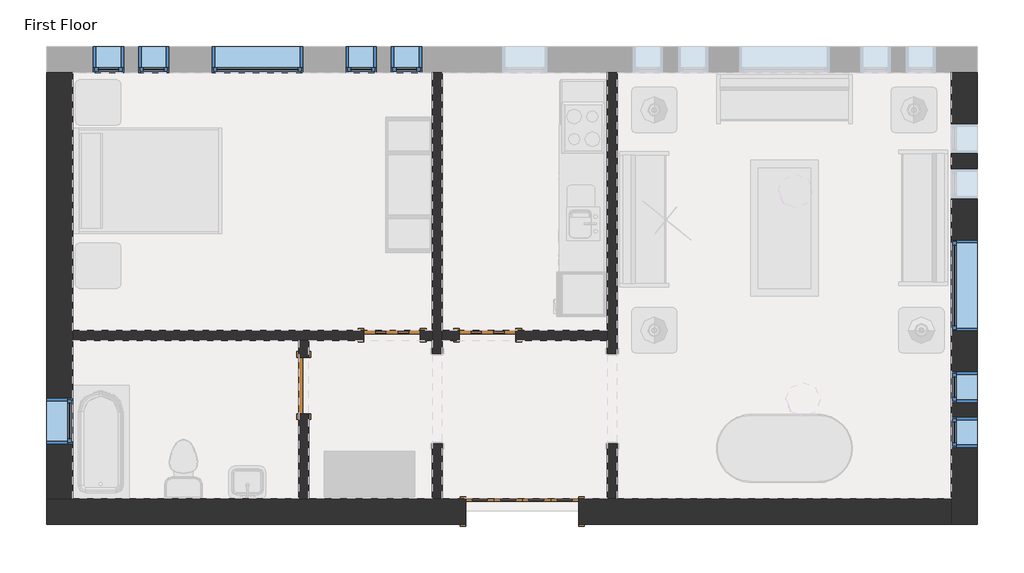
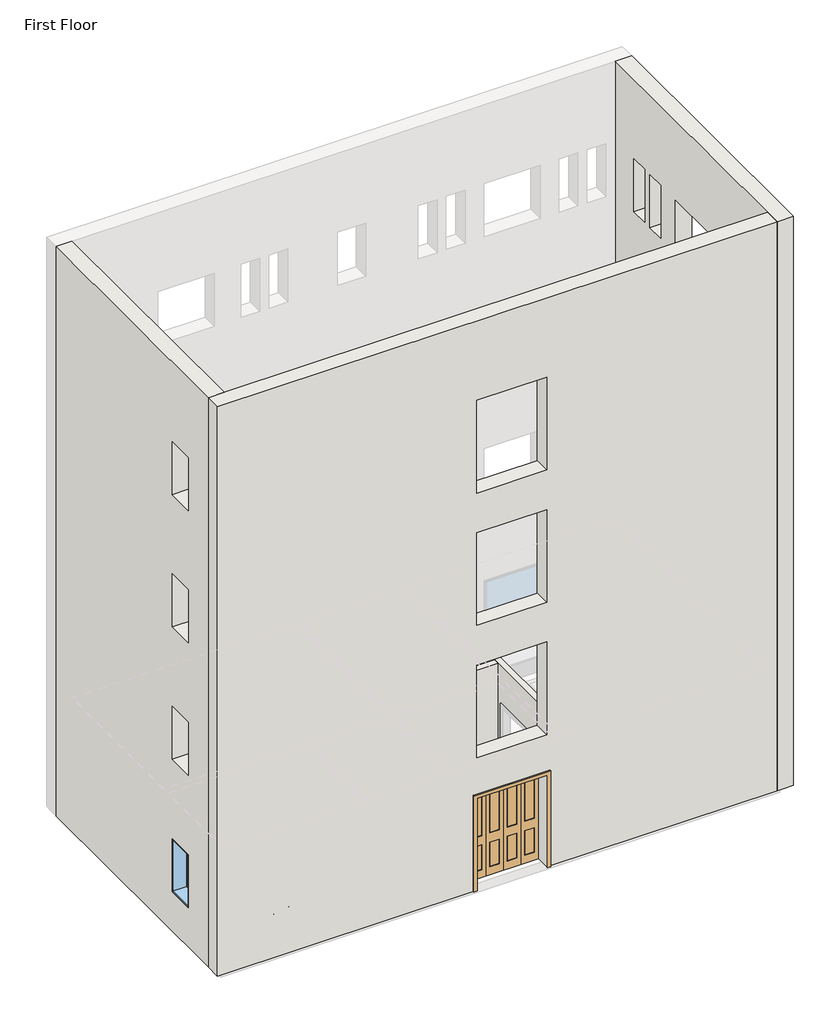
# One storey, part 1 of 2: 9 windows, 7 walls, 4 doors.
"""IFC4 building model written with IfcOpenShell, lengths in millimetres."""

import ifcopenshell
import ifcopenshell.guid

model = None  # the IFC model being written
_history = None  # IfcOwnerHistory: only IFC2X3 demands one
_inside = {}  # id of a spatial element -> (the spatial element, [elements in it])
_under = {}  # id of a project, library or spatial element -> (it, [spatial elements below it])
_declared = {}  # id of a project -> (the project, [libraries it declares])
_typed = {}  # id of a type object -> (the type object, [elements of that type])
_made_of = {}  # id of a material, layer set ... -> (it, [elements and type objects made of it])


def new_model(schema):
    """Start an empty IFC model of exactly this schema.

    Asked for "IFC4X3", IfcOpenShell would pick the latest addendum, in which some entities
    have other attributes; the version numbers below select the first issue.
    IFC2X3 requires an IfcOwnerHistory on every rooted entity: one is made here for all.
    """
    global model, _history
    if schema == "IFC4X3":
        model = ifcopenshell.file(schema_version=(4, 3, 0, 0))
    else:
        model = ifcopenshell.file(schema=schema)
    _inside.clear()
    _under.clear()
    _declared.clear()
    _typed.clear()
    _made_of.clear()
    _history = None
    if model.schema == "IFC2X3":
        org = make("IfcOrganization", Name="unknown")
        user = make(
            "IfcPersonAndOrganization",
            ThePerson=make("IfcPerson", FamilyName="unknown"),
            TheOrganization=org,
        )
        app = make(
            "IfcApplication",
            ApplicationDeveloper=org,
            Version="unknown",
            ApplicationFullName="unknown",
            ApplicationIdentifier="unknown",
        )
        _history = make(
            "IfcOwnerHistory",
            OwningUser=user,
            OwningApplication=app,
            ChangeAction="ADDED",
            CreationDate=0,
        )
    return model


def make(cls, **values):
    """One entity of the class cls with the attributes given. An attribute that is None is left unset."""
    return model.create_entity(
        cls, **{name: value for name, value in values.items() if value is not None}
    )


def rooted(cls, **values):
    """An entity with a GlobalId (a new one), such as an element, a storey or a relation."""
    return make(cls, GlobalId=ifcopenshell.guid.new(), OwnerHistory=_history, **values)


def si_unit(unit_type, name, prefix=None):
    """IfcSIUnit, for example si_unit("LENGTHUNIT", "METRE", prefix="MILLI")."""
    return make("IfcSIUnit", UnitType=unit_type, Prefix=prefix, Name=name)


def assignment(units):
    """IfcUnitAssignment: the units of a project."""
    return None if units is None else make("IfcUnitAssignment", Units=units)


def point(xyz):
    """IfcCartesianPoint."""
    return None if xyz is None else make("IfcCartesianPoint", Coordinates=xyz)


def direction(xyz):
    """IfcDirection."""
    return None if xyz is None else make("IfcDirection", DirectionRatios=xyz)


def frame(location, z_axis=None, x_axis=None):
    """IfcAxis2Placement3D, a coordinate frame: its origin and axes. An axis left out is left unset."""
    return make(
        "IfcAxis2Placement3D",
        Location=point(location),
        Axis=direction(z_axis),
        RefDirection=direction(x_axis),
    )


def frame_2d(location, x_axis=None):
    """IfcAxis2Placement2D, a coordinate frame in the plane: its origin and x axis."""
    return make(
        "IfcAxis2Placement2D", Location=point(location), RefDirection=direction(x_axis)
    )


def origin():
    """The frame at (0, 0, 0) with its axes left unset."""
    return frame((0.0, 0.0, 0.0))


def origin_with_axes():
    """The frame at (0, 0, 0) with the z axis (0, 0, 1) and the x axis (1, 0, 0) written out."""
    return frame((0.0, 0.0, 0.0), z_axis=(0.0, 0.0, 1.0), x_axis=(1.0, 0.0, 0.0))


def place(relative_to, where):
    """IfcLocalPlacement: puts the frame where relative to a parent placement (None: the world)."""
    return make(
        "IfcLocalPlacement", PlacementRelTo=relative_to, RelativePlacement=where
    )


def context(
    kind, dimensions, precision=None, world=None, true_north=None, identifier=None
):
    """IfcGeometricRepresentationContext, for example the 3D "Model" context."""
    return make(
        "IfcGeometricRepresentationContext",
        ContextIdentifier=identifier,
        ContextType=kind,
        CoordinateSpaceDimension=dimensions,
        Precision=precision,
        WorldCoordinateSystem=world,
        TrueNorth=true_north,
    )


def project(units=None, contexts=None):
    """IfcProject with its units and contexts."""
    return rooted(
        "IfcProject",
        Name="project",
        RepresentationContexts=contexts,
        UnitsInContext=assignment(units),
    )


def spatial(cls, under=None, at=None, **own):
    """A site, building, storey or space (cls), placed at a placement, below another one or the project."""
    s = rooted(cls, ObjectPlacement=at, **own)
    if under is not None:
        _under.setdefault(under.id(), (under, []))[1].append(s)
    return s


def polyline(points):
    """IfcPolyline through the points."""
    return make("IfcPolyline", Points=[point(p) for p in points])


def circle_curve(where, radius):
    """IfcCircle in the frame where."""
    return make("IfcCircle", Position=where, Radius=radius)


def trimmed(basis, trim1, trim2, sense, master):
    """IfcTrimmedCurve: the piece of a basis curve between two trims."""
    return make(
        "IfcTrimmedCurve",
        BasisCurve=basis,
        Trim1=trim1,
        Trim2=trim2,
        SenseAgreement=sense,
        MasterRepresentation=master,
    )


def segment(curve, same_sense, transition):
    """IfcCompositeCurveSegment."""
    return make(
        "IfcCompositeCurveSegment",
        Transition=transition,
        SameSense=same_sense,
        ParentCurve=curve,
    )


def composite_curve(segments, self_intersect=None):
    """IfcCompositeCurve: segments joined end to end."""
    return make("IfcCompositeCurve", Segments=segments, SelfIntersect=self_intersect)


def outline(outer, holes=None, kind="AREA"):
    """IfcArbitraryClosedProfileDef: a profile drawn as a closed curve; with holes, ...WithVoids."""
    if holes is None:
        return make("IfcArbitraryClosedProfileDef", ProfileType=kind, OuterCurve=outer)
    return make(
        "IfcArbitraryProfileDefWithVoids",
        ProfileType=kind,
        OuterCurve=outer,
        InnerCurves=holes,
    )


def extrude(swept, where, along, depth):
    """IfcExtrudedAreaSolid: the profile swept, set in the frame where, extruded along a direction by depth."""
    return make(
        "IfcExtrudedAreaSolid",
        SweptArea=swept,
        Position=where,
        ExtrudedDirection=direction(along),
        Depth=depth,
    )


def faces_of(points, faces, orient=None, outer=None):
    """IfcFace entities. A face is a list of loops; a loop is a list of indices into points, from 0.

    orient and outer hold one flag for each loop. By default every Orientation is true, the
    first loop of a face is its IfcFaceOuterBound and the others are IfcFaceBound.
    """
    made = []
    for i, loops in enumerate(faces):
        bounds = []
        for j, loop in enumerate(loops):
            is_outer = j == 0 if outer is None else outer[i][j]
            bounds.append(
                make(
                    "IfcFaceOuterBound" if is_outer else "IfcFaceBound",
                    Bound=make("IfcPolyLoop", Polygon=[points[k] for k in loop]),
                    Orientation=True if orient is None else orient[i][j],
                )
            )
        made.append(make("IfcFace", Bounds=bounds))
    return made


def faceted_brep(points, faces, orient=None, outer=None, voids=None):
    """IfcFacetedBrep: a solid bounded by flat faces; with voids (closed shells), ...WithVoids."""
    shared = [point(p) for p in points]
    hull = make("IfcClosedShell", CfsFaces=faces_of(shared, faces, orient, outer))
    if voids is None:
        return make("IfcFacetedBrep", Outer=hull)
    return make(
        "IfcFacetedBrepWithVoids",
        Outer=hull,
        Voids=[
            make(cls, CfsFaces=faces_of(shared, fs, o, b)) for cls, fs, o, b in voids
        ],
    )


def shape(context_of_items, identifier, shape_type, items):
    """IfcShapeRepresentation: the items that make up one representation, for example the "Body"."""
    return make(
        "IfcShapeRepresentation",
        ContextOfItems=context_of_items,
        RepresentationIdentifier=identifier,
        RepresentationType=shape_type,
        Items=items,
    )


def source(mapping_origin, context_of_items, identifier, shape_type, items):
    """IfcRepresentationMap: a shape defined once, which mapped items show again and again."""
    return make(
        "IfcRepresentationMap",
        MappingOrigin=mapping_origin,
        MappedRepresentation=shape(context_of_items, identifier, shape_type, items),
    )


def transform(
    local_origin,
    x_axis=None,
    y_axis=None,
    z_axis=None,
    scale=None,
    scale2=None,
    scale3=None,
    uniform=True,
):
    """IfcCartesianTransformationOperator3D, or its non-uniform kind. x_axis, y_axis, z_axis: its Axis1, 2, 3."""
    if uniform:
        return make(
            "IfcCartesianTransformationOperator3D",
            Axis1=direction(x_axis),
            Axis2=direction(y_axis),
            LocalOrigin=point(local_origin),
            Scale=scale,
            Axis3=direction(z_axis),
        )
    return make(
        "IfcCartesianTransformationOperator3DnonUniform",
        Axis1=direction(x_axis),
        Axis2=direction(y_axis),
        LocalOrigin=point(local_origin),
        Scale=scale,
        Axis3=direction(z_axis),
        Scale2=scale2,
        Scale3=scale3,
    )


def mapped(mapping_source, mapping_target):
    """IfcMappedItem: shows the shape of a source again, moved by a transform."""
    return make(
        "IfcMappedItem", MappingSource=mapping_source, MappingTarget=mapping_target
    )


def made_of(thing, what):
    """Note that an element or type object is made of a material, layer set ...; save() writes the relation."""
    if what is not None:
        _made_of.setdefault(what.id(), (what, []))[1].append(thing)
    return thing


def element(
    cls,
    number,
    at=None,
    inside=None,
    cuts=None,
    type_object=None,
    material=None,
    context=None,
    identifier="Body",
    shape_type=None,
    held_by="IfcProductDefinitionShape",
    body=None,
    shapes=None,
    **own,
):
    """One element of the class cls, such as IfcWall. Its Tag is "e" and its number.

    at: its placement. inside: the storey or other place that contains it. cuts: it is an
    opening in that element (IfcRelVoidsElement). A single representation is given by context,
    identifier, shape_type and body (its items); several are given by shapes. held_by: the class
    of the entity that holds the representations. save() writes the other relations.
    """
    e = rooted(cls, Tag="e%d" % number, ObjectPlacement=at, **own)
    if body is not None:
        shapes = [shape(context, identifier, shape_type, body)]
    if shapes is not None:
        e.Representation = make(held_by, Representations=shapes)
    if inside is not None:
        _inside.setdefault(inside.id(), (inside, []))[1].append(e)
    if cuts is not None:
        rooted(
            "IfcRelVoidsElement", RelatingBuildingElement=cuts, RelatedOpeningElement=e
        )
    if type_object is not None:
        _typed.setdefault(type_object.id(), (type_object, []))[1].append(e)
    return made_of(e, material)


def aggregate(whole, parts):
    """IfcRelAggregates: a whole, such as a stair, and the parts it consists of."""
    return rooted("IfcRelAggregates", RelatingObject=whole, RelatedObjects=parts)


def save(model, path):
    """Write the relations noted so far, then the file.

    IfcRelAggregates (storeys below a building ...), IfcRelContainedInSpatialStructure (elements
    in a storey), IfcRelDefinesByType, IfcRelAssociatesMaterial and IfcRelDeclares: one each for
    every whole, place, type object, material and project.
    """
    for whole, parts in _under.values():
        aggregate(whole, parts)
    for where, things in _inside.values():
        rooted(
            "IfcRelContainedInSpatialStructure",
            RelatedElements=things,
            RelatingStructure=where,
        )
    for kind, things in _typed.values():
        rooted("IfcRelDefinesByType", RelatedObjects=things, RelatingType=kind)
    for what, things in _made_of.values():
        rooted("IfcRelAssociatesMaterial", RelatedObjects=things, RelatingMaterial=what)
    for by, libraries in _declared.values():
        rooted("IfcRelDeclares", RelatingContext=by, RelatedDefinitions=libraries)
    model.write(path)


def m_bifold_4_panel_1525_x_2134mm_1ddae71f(model_context):
    return source(origin(), model_context, "Body", "SweptSolid", [
        extrude(outline(polyline([(470.15, 162.3), (673.6, 162.3), (673.6, 149.6), (470.15, 149.6), (470.15, 162.3)])), frame((0.0, 0.0, 965.2), z_axis=(0.0, 0.0, 1.0), x_axis=(1.0, 0.0, 0.0)), (0.0, 0.0, 1.0), 1086.25),
        extrude(outline(polyline([(470.15, 162.3), (673.6, 162.3), (673.6, 149.6), (470.15, 149.6), (470.15, 162.3)])), frame((0.0, 0.0, 184.15), z_axis=(0.0, 0.0, 1.0), x_axis=(1.0, 0.0, 0.0)), (0.0, 0.0, 1.0), 565.15),
        extrude(outline(polyline([(88.9, 162.3), (292.35, 162.3), (292.35, 149.6), (88.9, 149.6), (88.9, 162.3)])), frame((0.0, 0.0, 965.2), z_axis=(0.0, 0.0, 1.0), x_axis=(1.0, 0.0, 0.0)), (0.0, 0.0, 1.0), 1086.25),
        extrude(outline(polyline([(88.9, 162.3), (292.35, 162.3), (292.35, 149.6), (88.9, 149.6), (88.9, 162.3)])), frame((0.0, 0.0, 184.15), z_axis=(0.0, 0.0, 1.0), x_axis=(1.0, 0.0, 0.0)), (0.0, 0.0, 1.0), 565.15),
        extrude(outline(polyline([(-292.35, 162.3), (-88.9, 162.3), (-88.9, 149.6), (-292.35, 149.6), (-292.35, 162.3)])), frame((0.0, 0.0, 184.15), z_axis=(0.0, 0.0, 1.0), x_axis=(1.0, 0.0, 0.0)), (0.0, 0.0, 1.0), 565.15),
        extrude(outline(polyline([(-292.35, 162.3), (-88.9, 162.3), (-88.9, 149.6), (-292.35, 149.6), (-292.35, 162.3)])), frame((0.0, 0.0, 965.2), z_axis=(0.0, 0.0, 1.0), x_axis=(1.0, 0.0, 0.0)), (0.0, 0.0, 1.0), 1086.25),
        extrude(outline(polyline([(-673.6, 162.3), (-470.15, 162.3), (-470.15, 149.6), (-673.6, 149.6), (-673.6, 162.3)])), frame((0.0, 0.0, 965.2), z_axis=(0.0, 0.0, 1.0), x_axis=(1.0, 0.0, 0.0)), (0.0, 0.0, 1.0), 1086.25),
        extrude(outline(polyline([(-673.6, 162.3), (-470.15, 162.3), (-470.15, 149.6), (-673.6, 149.6), (-673.6, 162.3)])), frame((0.0, 0.0, 184.15), z_axis=(0.0, 0.0, 1.0), x_axis=(1.0, 0.0, 0.0)), (0.0, 0.0, 1.0), 565.15),
        extrude(outline(polyline([(0.0, 838.5), (2210.0, 838.5), (2210.0, -838.5), (0.0, -838.5), (0.0, -762.5), (2134.0, -762.5), (2134.0, 762.5), (0.0, 762.5), (0.0, 838.5)])), frame((0.0, -200.4, 0.0), z_axis=(0.0, 1.0, 0.0), x_axis=(0.0, 0.0, 1.0)), (0.0, 0.0, 1.0), 25.4),
        extrude(outline(polyline([(0.0, 838.5), (2210.0, 838.5), (2210.0, -838.5), (0.0, -838.5), (0.0, -762.5), (2134.0, -762.5), (2134.0, 762.5), (0.0, 762.5), (0.0, 838.5)])), frame((0.0, 175.0, 0.0), z_axis=(0.0, 1.0, 0.0), x_axis=(0.0, 0.0, 1.0)), (0.0, 0.0, 1.0), 25.4),
        extrude(outline(polyline([(0.0, -762.5), (0.0, -381.25), (2134.0, -381.25), (2134.0, -762.5), (0.0, -762.5)]), holes=[polyline([(2051.45, -673.6), (2051.45, -470.15), (965.2, -470.15), (965.2, -673.6), (2051.45, -673.6)]), polyline([(749.3, -673.6), (749.3, -470.15), (184.15, -470.15), (184.15, -673.6), (749.3, -673.6)])]), frame((0.0, 136.9, 0.0), z_axis=(0.0, 1.0, 0.0), x_axis=(0.0, 0.0, 1.0)), (0.0, 0.0, 1.0), 38.1),
        extrude(outline(polyline([(0.0, -381.25), (0.0, 0.0), (2134.0, 0.0), (2134.0, -381.25), (0.0, -381.25)]), holes=[polyline([(2051.45, -292.35), (2051.45, -88.9), (965.2, -88.9), (965.2, -292.35), (2051.45, -292.35)]), polyline([(749.3, -292.35), (749.3, -88.9), (184.15, -88.9), (184.15, -292.35), (749.3, -292.35)])]), frame((0.0, 136.9, 0.0), z_axis=(0.0, 1.0, 0.0), x_axis=(0.0, 0.0, 1.0)), (0.0, 0.0, 1.0), 38.1),
        extrude(outline(polyline([(0.0, 0.0), (0.0, 381.25), (2134.0, 381.25), (2134.0, 0.0), (0.0, 0.0)]), holes=[polyline([(2051.45, 88.9), (2051.45, 292.35), (965.2, 292.35), (965.2, 88.9), (2051.45, 88.9)]), polyline([(749.3, 88.9), (749.3, 292.35), (184.15, 292.35), (184.15, 88.9), (749.3, 88.9)])]), frame((0.0, 136.9, 0.0), z_axis=(0.0, 1.0, 0.0), x_axis=(0.0, 0.0, 1.0)), (0.0, 0.0, 1.0), 38.1),
        extrude(outline(polyline([(0.0, 381.25), (0.0, 762.5), (2134.0, 762.5), (2134.0, 381.25), (0.0, 381.25)]), holes=[polyline([(2051.45, 470.15), (2051.45, 673.6), (965.2, 673.6), (965.2, 470.15), (2051.45, 470.15)]), polyline([(749.3, 470.15), (749.3, 673.6), (184.15, 673.6), (184.15, 470.15), (749.3, 470.15)])]), frame((0.0, 136.9, 0.0), z_axis=(0.0, 1.0, 0.0), x_axis=(0.0, 0.0, 1.0)), (0.0, 0.0, 1.0), 38.1),
    ])


def m_single_decorative_2_0762_x_2134mm_0d0af7cb(model_context):
    return source(origin(), model_context, "Body", "SweptSolid", [
        extrude(outline(polyline([(2134.0, 381.0), (2134.0, -381.0), (0.0, -381.0), (0.0, 381.0), (2134.0, 381.0)]), holes=[polyline([(1219.3, -76.2), (254.0, -76.2), (254.0, -228.6), (1219.3, -228.6), (1219.3, -76.2)]), polyline([(1219.3, 228.6), (254.0, 228.6), (254.0, 76.2), (1219.3, 76.2), (1219.3, 228.6)]), polyline([(1371.7, -76.2), (1371.7, -228.6), (1574.9, -228.6), (1574.9, -76.2), (1371.7, -76.2)]), polyline([(1574.9, 76.2), (1574.9, 228.6), (1371.7, 228.6), (1371.7, 76.2), (1574.9, 76.2)]), composite_curve([segment(polyline([(1727.3, 228.6), (1727.3, -228.6)]), True, "CONTINUOUS"), segment(trimmed(circle_curve(frame_2d((1727.3, 0.0)), 228.6), [point((1727.3, -228.6))], [point((1727.3, 228.6))], True, "CARTESIAN"), True, "CONTINUOUS")], self_intersect=False)]), frame((0.0, -67.75, 0.0), z_axis=(0.0, 1.0, 0.0), x_axis=(0.0, 0.0, 1.0)), (0.0, 0.0, 1.0), 50.0),
        extrude(outline(polyline([(0.0, 381.0), (0.0, 457.0), (2210.0, 457.0), (2210.0, -457.0), (0.0, -457.0), (0.0, -381.0), (2134.0, -381.0), (2134.0, 381.0), (0.0, 381.0)])), frame((0.0, 67.75, 0.0), z_axis=(0.0, 1.0, 0.0), x_axis=(0.0, 0.0, 1.0)), (0.0, 0.0, 1.0), 25.0),
        extrude(outline(polyline([(2210.0, -457.0), (0.0, -457.0), (0.0, -381.0), (2134.0, -381.0), (2134.0, 381.0), (0.0, 381.0), (0.0, 457.0), (2210.0, 457.0), (2210.0, -457.0)])), frame((0.0, -92.75, 0.0), z_axis=(0.0, 1.0, 0.0), x_axis=(0.0, 0.0, 1.0)), (0.0, 0.0, 1.0), 25.0),
        extrude(outline(composite_curve([segment(trimmed(circle_curve(frame_2d((1727.3, 0.0)), 228.6), [point((1727.3, 228.6))], [point((1727.3, -228.6))], False, "CARTESIAN"), True, "CONTINUOUS"), segment(polyline([(1727.3, -228.6), (1727.3, 228.6)]), True, "CONTINUOUS")], self_intersect=False)), frame((0.0, -51.0833333, 0.0), z_axis=(0.0, 1.0, 0.0), x_axis=(0.0, 0.0, 1.0)), (0.0, 0.0, 1.0), 16.6666667),
        extrude(outline(polyline([(-228.6, -51.0833333), (-228.6, -34.4166667), (-76.2, -34.4166667), (-76.2, -51.0833333), (-228.6, -51.0833333)])), frame((0.0, 0.0, 254.0), z_axis=(0.0, 0.0, 1.0), x_axis=(1.0, 0.0, 0.0)), (0.0, 0.0, 1.0), 965.3),
        extrude(outline(polyline([(76.2, -51.0833333), (76.2, -34.4166667), (228.6, -34.4166667), (228.6, -51.0833333), (76.2, -51.0833333)])), frame((0.0, 0.0, 254.0), z_axis=(0.0, 0.0, 1.0), x_axis=(1.0, 0.0, 0.0)), (0.0, 0.0, 1.0), 965.3),
        extrude(outline(polyline([(76.2, -51.0833333), (76.2, -34.4166667), (228.6, -34.4166667), (228.6, -51.0833333), (76.2, -51.0833333)])), frame((0.0, 0.0, 1371.7), z_axis=(0.0, 0.0, 1.0), x_axis=(1.0, 0.0, 0.0)), (0.0, 0.0, 1.0), 203.2),
        extrude(outline(polyline([(-228.6, -51.0833333), (-228.6, -34.4166667), (-76.2, -34.4166667), (-76.2, -51.0833333), (-228.6, -51.0833333)])), frame((0.0, 0.0, 1371.7), z_axis=(0.0, 0.0, 1.0), x_axis=(1.0, 0.0, 0.0)), (0.0, 0.0, 1.0), 203.2),
    ])


def m_single_decorative_2_0762_x_2134mm_2fe67c8e(model_context):
    return source(origin(), model_context, "Body", "SweptSolid", [
        extrude(outline(polyline([(2134.0, 381.0), (2134.0, -381.0), (0.0, -381.0), (0.0, 381.0), (2134.0, 381.0)]), holes=[polyline([(1219.3, -76.2), (254.0, -76.2), (254.0, -228.6), (1219.3, -228.6), (1219.3, -76.2)]), polyline([(1219.3, 228.6), (254.0, 228.6), (254.0, 76.2), (1219.3, 76.2), (1219.3, 228.6)]), polyline([(1371.7, -76.2), (1371.7, -228.6), (1574.9, -228.6), (1574.9, -76.2), (1371.7, -76.2)]), polyline([(1574.9, 76.2), (1574.9, 228.6), (1371.7, 228.6), (1371.7, 76.2), (1574.9, 76.2)]), composite_curve([segment(polyline([(1727.3, 228.6), (1727.3, -228.6)]), True, "CONTINUOUS"), segment(trimmed(circle_curve(frame_2d((1727.3, 0.0)), 228.6), [point((1727.3, -228.6))], [point((1727.3, 228.6))], True, "CARTESIAN"), True, "CONTINUOUS")], self_intersect=False)]), frame((0.0, 17.75, 0.0), z_axis=(0.0, 1.0, 0.0), x_axis=(0.0, 0.0, 1.0)), (0.0, 0.0, 1.0), 50.0),
        extrude(outline(polyline([(0.0, 381.0), (0.0, 457.0), (2210.0, 457.0), (2210.0, -457.0), (0.0, -457.0), (0.0, -381.0), (2134.0, -381.0), (2134.0, 381.0), (0.0, 381.0)])), frame((0.0, -92.75, 0.0), z_axis=(0.0, 1.0, 0.0), x_axis=(0.0, 0.0, 1.0)), (0.0, 0.0, 1.0), 25.0),
        extrude(outline(polyline([(2210.0, -457.0), (0.0, -457.0), (0.0, -381.0), (2134.0, -381.0), (2134.0, 381.0), (0.0, 381.0), (0.0, 457.0), (2210.0, 457.0), (2210.0, -457.0)])), frame((0.0, 67.75, 0.0), z_axis=(0.0, 1.0, 0.0), x_axis=(0.0, 0.0, 1.0)), (0.0, 0.0, 1.0), 25.0),
        extrude(outline(composite_curve([segment(trimmed(circle_curve(frame_2d((1727.3, 0.0)), 228.6), [point((1727.3, 228.6))], [point((1727.3, -228.6))], False, "CARTESIAN"), True, "CONTINUOUS"), segment(polyline([(1727.3, -228.6), (1727.3, 228.6)]), True, "CONTINUOUS")], self_intersect=False)), frame((0.0, 34.4166667, 0.0), z_axis=(0.0, 1.0, 0.0), x_axis=(0.0, 0.0, 1.0)), (0.0, 0.0, 1.0), 16.6666667),
        extrude(outline(polyline([(-228.6, 51.0833333), (-76.2, 51.0833333), (-76.2, 34.4166667), (-228.6, 34.4166667), (-228.6, 51.0833333)])), frame((0.0, 0.0, 254.0), z_axis=(0.0, 0.0, 1.0), x_axis=(1.0, 0.0, 0.0)), (0.0, 0.0, 1.0), 965.3),
        extrude(outline(polyline([(76.2, 51.0833333), (228.6, 51.0833333), (228.6, 34.4166667), (76.2, 34.4166667), (76.2, 51.0833333)])), frame((0.0, 0.0, 254.0), z_axis=(0.0, 0.0, 1.0), x_axis=(1.0, 0.0, 0.0)), (0.0, 0.0, 1.0), 965.3),
        extrude(outline(polyline([(76.2, 51.0833333), (228.6, 51.0833333), (228.6, 34.4166667), (76.2, 34.4166667), (76.2, 51.0833333)])), frame((0.0, 0.0, 1371.7), z_axis=(0.0, 0.0, 1.0), x_axis=(1.0, 0.0, 0.0)), (0.0, 0.0, 1.0), 203.2),
        extrude(outline(polyline([(-228.6, 51.0833333), (-76.2, 51.0833333), (-76.2, 34.4166667), (-228.6, 34.4166667), (-228.6, 51.0833333)])), frame((0.0, 0.0, 1371.7), z_axis=(0.0, 0.0, 1.0), x_axis=(1.0, 0.0, 0.0)), (0.0, 0.0, 1.0), 203.2),
    ])


def m_single_flush_0762_x_2134mm_0d89e411(model_context):
    return source(origin(), model_context, "Body", "SweptSolid", [
        extrude(outline(polyline([(2210.0, -457.0), (0.0, -457.0), (0.0, -381.0), (2134.0, -381.0), (2134.0, 381.0), (0.0, 381.0), (0.0, 457.0), (2210.0, 457.0), (2210.0, -457.0)])), frame((0.0, 67.75, 0.0), z_axis=(0.0, 1.0, 0.0), x_axis=(0.0, 0.0, 1.0)), (0.0, 0.0, 1.0), 25.0),
        extrude(outline(polyline([(2210.0, 457.0), (2210.0, -457.0), (0.0, -457.0), (0.0, -381.0), (2134.0, -381.0), (2134.0, 381.0), (0.0, 381.0), (0.0, 457.0), (2210.0, 457.0)])), frame((0.0, -92.75, 0.0), z_axis=(0.0, 1.0, 0.0), x_axis=(0.0, 0.0, 1.0)), (0.0, 0.0, 1.0), 25.0),
        extrude(outline(polyline([(381.0, 16.75), (-381.0, 16.75), (-381.0, 67.75), (381.0, 67.75), (381.0, 16.75)])), origin_with_axes(), (0.0, 0.0, 1.0), 2134.0),
    ])


def m_fixed_0406_x_1220mm_57fee329(model_context):
    return source(origin(), model_context, "Body", "SweptSolid", [
        extrude(outline(polyline([(-140.0, 153.0), (140.0, 153.0), (140.0, 141.0), (-140.0, 141.0), (-140.0, 153.0)])), frame((0.0, 0.0, 978.0), z_axis=(0.0, 0.0, 1.0), x_axis=(1.0, 0.0, 0.0)), (0.0, 0.0, 1.0), 1094.0),
        extrude(outline(polyline([(2116.0, -184.0), (934.0, -184.0), (934.0, 184.0), (2116.0, 184.0), (2116.0, -184.0)]), holes=[polyline([(2072.0, -140.0), (2072.0, 140.0), (978.0, 140.0), (978.0, -140.0), (2072.0, -140.0)])]), frame((0.0, 125.0, 0.0), z_axis=(0.0, 1.0, 0.0), x_axis=(0.0, 0.0, 1.0)), (0.0, 0.0, 1.0), 44.0),
        extrude(outline(polyline([(2135.0, -203.0), (915.0, -203.0), (915.0, 203.0), (2135.0, 203.0), (2135.0, -203.0)]), holes=[polyline([(2116.0, -184.0), (2116.0, 184.0), (934.0, 184.0), (934.0, -184.0), (2116.0, -184.0)])]), frame((0.0, 125.0, 0.0), z_axis=(0.0, 1.0, 0.0), x_axis=(0.0, 0.0, 1.0)), (0.0, 0.0, 1.0), 63.0),
        extrude(outline(polyline([(2135.0, -203.0), (915.0, -203.0), (915.0, 203.0), (2135.0, 203.0), (2135.0, -203.0)]), holes=[polyline([(2103.0, -171.0), (2103.0, 171.0), (947.0, 171.0), (947.0, -171.0), (2103.0, -171.0)])]), frame((0.0, -162.0, 0.0), z_axis=(0.0, 1.0, 0.0), x_axis=(0.0, 0.0, 1.0)), (0.0, 0.0, 1.0), 287.0),
    ])


def m_fixed_0406_x_1220mm_85c28f40(model_context):
    return source(origin(), model_context, "Body", "SweptSolid", [
        extrude(outline(polyline([(-140.0, -153.0), (-140.0, -141.0), (140.0, -141.0), (140.0, -153.0), (-140.0, -153.0)])), frame((0.0, 0.0, 978.0), z_axis=(0.0, 0.0, 1.0), x_axis=(1.0, 0.0, 0.0)), (0.0, 0.0, 1.0), 1094.0),
        extrude(outline(polyline([(2116.0, -184.0), (934.0, -184.0), (934.0, 184.0), (2116.0, 184.0), (2116.0, -184.0)]), holes=[polyline([(2072.0, -140.0), (2072.0, 140.0), (978.0, 140.0), (978.0, -140.0), (2072.0, -140.0)])]), frame((0.0, -169.0, 0.0), z_axis=(0.0, 1.0, 0.0), x_axis=(0.0, 0.0, 1.0)), (0.0, 0.0, 1.0), 44.0),
        extrude(outline(polyline([(2135.0, -203.0), (915.0, -203.0), (915.0, 203.0), (2135.0, 203.0), (2135.0, -203.0)]), holes=[polyline([(2116.0, -184.0), (2116.0, 184.0), (934.0, 184.0), (934.0, -184.0), (2116.0, -184.0)])]), frame((0.0, -188.0, 0.0), z_axis=(0.0, 1.0, 0.0), x_axis=(0.0, 0.0, 1.0)), (0.0, 0.0, 1.0), 63.0),
        extrude(outline(polyline([(2135.0, -203.0), (915.0, -203.0), (915.0, 203.0), (2135.0, 203.0), (2135.0, -203.0)]), holes=[polyline([(2103.0, -171.0), (2103.0, 171.0), (947.0, 171.0), (947.0, -171.0), (2103.0, -171.0)])]), frame((0.0, -125.0, 0.0), z_axis=(0.0, 1.0, 0.0), x_axis=(0.0, 0.0, 1.0)), (0.0, 0.0, 1.0), 287.0),
    ])


def m_fixed_0610_x_1220mm_2c28ef1d(model_context):
    return source(origin(), model_context, "Body", "SweptSolid", [
        extrude(outline(polyline([(-242.0, 153.0), (242.0, 153.0), (242.0, 141.0), (-242.0, 141.0), (-242.0, 153.0)])), frame((0.0, 0.0, 978.0), z_axis=(0.0, 0.0, 1.0), x_axis=(1.0, 0.0, 0.0)), (0.0, 0.0, 1.0), 1094.0),
        extrude(outline(polyline([(2116.0, -286.0), (934.0, -286.0), (934.0, 286.0), (2116.0, 286.0), (2116.0, -286.0)]), holes=[polyline([(2072.0, -242.0), (2072.0, 242.0), (978.0, 242.0), (978.0, -242.0), (2072.0, -242.0)])]), frame((0.0, 125.0, 0.0), z_axis=(0.0, 1.0, 0.0), x_axis=(0.0, 0.0, 1.0)), (0.0, 0.0, 1.0), 44.0),
        extrude(outline(polyline([(2135.0, -305.0), (915.0, -305.0), (915.0, 305.0), (2135.0, 305.0), (2135.0, -305.0)]), holes=[polyline([(2116.0, -286.0), (2116.0, 286.0), (934.0, 286.0), (934.0, -286.0), (2116.0, -286.0)])]), frame((0.0, 125.0, 0.0), z_axis=(0.0, 1.0, 0.0), x_axis=(0.0, 0.0, 1.0)), (0.0, 0.0, 1.0), 63.0),
        extrude(outline(polyline([(2135.0, -305.0), (915.0, -305.0), (915.0, 305.0), (2135.0, 305.0), (2135.0, -305.0)]), holes=[polyline([(2103.0, -273.0), (2103.0, 273.0), (947.0, 273.0), (947.0, -273.0), (2103.0, -273.0)])]), frame((0.0, -162.0, 0.0), z_axis=(0.0, 1.0, 0.0), x_axis=(0.0, 0.0, 1.0)), (0.0, 0.0, 1.0), 287.0),
    ])


def m_fixed_1220_x_1220mm_e08ff7af(model_context):
    return source(origin(), model_context, "Body", "SweptSolid", [
        extrude(outline(polyline([(-547.0, 153.0), (547.0, 153.0), (547.0, 141.0), (-547.0, 141.0), (-547.0, 153.0)])), frame((0.0, 0.0, 978.0), z_axis=(0.0, 0.0, 1.0), x_axis=(1.0, 0.0, 0.0)), (0.0, 0.0, 1.0), 1094.0),
        extrude(outline(polyline([(2116.0, -591.0), (934.0, -591.0), (934.0, 591.0), (2116.0, 591.0), (2116.0, -591.0)]), holes=[polyline([(2072.0, -547.0), (2072.0, 547.0), (978.0, 547.0), (978.0, -547.0), (2072.0, -547.0)])]), frame((0.0, 125.0, 0.0), z_axis=(0.0, 1.0, 0.0), x_axis=(0.0, 0.0, 1.0)), (0.0, 0.0, 1.0), 44.0),
        extrude(outline(polyline([(2135.0, -610.0), (915.0, -610.0), (915.0, 610.0), (2135.0, 610.0), (2135.0, -610.0)]), holes=[polyline([(2116.0, -591.0), (2116.0, 591.0), (934.0, 591.0), (934.0, -591.0), (2116.0, -591.0)])]), frame((0.0, 125.0, 0.0), z_axis=(0.0, 1.0, 0.0), x_axis=(0.0, 0.0, 1.0)), (0.0, 0.0, 1.0), 63.0),
        extrude(outline(polyline([(2135.0, -610.0), (915.0, -610.0), (915.0, 610.0), (2135.0, 610.0), (2135.0, -610.0)]), holes=[polyline([(2103.0, -578.0), (2103.0, 578.0), (947.0, 578.0), (947.0, -578.0), (2103.0, -578.0)])]), frame((0.0, -162.0, 0.0), z_axis=(0.0, 1.0, 0.0), x_axis=(0.0, 0.0, 1.0)), (0.0, 0.0, 1.0), 287.0),
    ])


model = new_model("IFC4")

# Units and contexts
model_context = context("Model", 3, world=origin())
ifc_project = project(units=[si_unit("LENGTHUNIT", "METRE", prefix="MILLI")], contexts=[model_context])

# Site, building, storey
site = spatial("IfcSite", under=ifc_project)
building = spatial("IfcBuilding", under=site)
storey = spatial("IfcBuildingStorey", under=building, Name="First Floor", Elevation=0.0)

# Doors
placement = place(None, origin())
m_bifold_4_panel_1525_x_2134mm_shape = m_bifold_4_panel_1525_x_2134mm_1ddae71f(model_context)
element("IfcDoor", 1, ObjectType="M_Bifold-4 Panel : 1525 x 2134mm", at=placement, inside=storey, context=model_context, shape_type="MappedRepresentation", body=[
    mapped(m_bifold_4_panel_1525_x_2134mm_shape, transform((-8876.0916203, -3514.8811614, 0.0), x_axis=(1.0, 0.0, 0.0), y_axis=(0.0, 1.0, 0.0), z_axis=(0.0, 0.0, 1.0))),
])
m_single_decorative_2_0762_x_2134mm_shape = m_single_decorative_2_0762_x_2134mm_0d0af7cb(model_context)
element("IfcDoor", 2, ObjectType="M_Single-Decorative 2 : 0762 x 2134mm", at=placement, inside=storey, context=model_context, shape_type="MappedRepresentation", body=[
    mapped(m_single_decorative_2_0762_x_2134mm_shape, transform((-9342.3416203, -1138.1311614, 0.0), x_axis=(-1.0, 0.0, 0.0), y_axis=(0.0, -1.0, 0.0), z_axis=(0.0, 0.0, 1.0))),
])
m_single_decorative_2_0762_x_2134mm_2_shape = m_single_decorative_2_0762_x_2134mm_2fe67c8e(model_context)
element("IfcDoor", 3, ObjectType="M_Single-Decorative 2 : 0762 x 2134mm", at=placement, inside=storey, context=model_context, shape_type="MappedRepresentation", body=[
    mapped(m_single_decorative_2_0762_x_2134mm_2_shape, transform((-10629.0916203, -1138.1311614, 0.0), x_axis=(1.0, 0.0, 0.0), y_axis=(0.0, 1.0, 0.0), z_axis=(0.0, 0.0, 1.0))),
])
m_single_flush_0762_x_2134mm_shape = m_single_flush_0762_x_2134mm_0d89e411(model_context)
element("IfcDoor", 4, ObjectType="M_Single-Flush : 0762 x 2134mm", at=placement, inside=storey, context=model_context, shape_type="MappedRepresentation", body=[
    mapped(m_single_flush_0762_x_2134mm_shape, transform((-11819.5916203, -1815.8811614, 0.0), x_axis=(0.0, 1.0, 0.0), y_axis=(-1.0, 0.0, 0.0), z_axis=(0.0, 0.0, 1.0))),
])

# Walls
element("IfcWall", 5, ObjectType="Exterior - Brick on Mtl. Stud", at=placement, inside=storey, context=model_context, shape_type="Brep", body=[
    faceted_brep([(-3093.3416203, 2406.1188386, 0.0), (-3093.3416203, -3339.8811614, 0.0), (-3093.3416203, -3504.8811614, 0.0), (-3093.3416203, -3689.8811614, 0.0), (-3093.3416203, -3689.8811614, 13107.0), (-3093.3416203, -3339.8811614, 13107.0), (-3093.3416203, 2406.1188386, 13107.0), (-3093.3416203, -1076.8811614, 915.0), (-3093.3416203, 143.1188386, 915.0), (-3093.3416203, 143.1188386, 2135.0), (-3093.3416203, -1076.8811614, 2135.0), (-3093.3416203, 701.1188386, 915.0), (-3093.3416203, 1107.1188386, 915.0), (-3093.3416203, 1107.1188386, 2135.0), (-3093.3416203, 701.1188386, 2135.0), (-3093.3416203, 1311.1188386, 915.0), (-3093.3416203, 1717.1188386, 915.0), (-3093.3416203, 1717.1188386, 2135.0), (-3093.3416203, 1311.1188386, 2135.0), (-3093.3416203, -1634.8811614, 915.0), (-3093.3416203, -1634.8811614, 2135.0), (-3093.3416203, -2040.8811614, 2135.0), (-3093.3416203, -2040.8811614, 915.0), (-3093.3416203, -2244.8811614, 915.0), (-3093.3416203, -2244.8811614, 2135.0), (-3093.3416203, -2650.8811614, 2135.0), (-3093.3416203, -2650.8811614, 915.0), (-3093.3416203, -1634.8811614, 10059.0), (-3093.3416203, -1634.8811614, 11279.0), (-3093.3416203, -2040.8811614, 11279.0), (-3093.3416203, -2040.8811614, 10059.0), (-3093.3416203, -2244.8811614, 10059.0), (-3093.3416203, -2244.8811614, 11279.0), (-3093.3416203, -2650.8811614, 11279.0), (-3093.3416203, -2650.8811614, 10059.0), (-3093.3416203, 701.1188386, 10059.0), (-3093.3416203, 1107.1188386, 10059.0), (-3093.3416203, 1107.1188386, 11279.0), (-3093.3416203, 701.1188386, 11279.0), (-3093.3416203, 1311.1188386, 10059.0), (-3093.3416203, 1717.1188386, 10059.0), (-3093.3416203, 1717.1188386, 11279.0), (-3093.3416203, 1311.1188386, 11279.0), (-3093.3416203, -1076.8811614, 10059.0), (-3093.3416203, 143.1188386, 10059.0), (-3093.3416203, 143.1188386, 11279.0), (-3093.3416203, -1076.8811614, 11279.0), (-3093.3416203, -1634.8811614, 3963.0), (-3093.3416203, -1634.8811614, 5183.0), (-3093.3416203, -2040.8811614, 5183.0), (-3093.3416203, -2040.8811614, 3963.0), (-3093.3416203, -2244.8811614, 3963.0), (-3093.3416203, -2244.8811614, 5183.0), (-3093.3416203, -2650.8811614, 5183.0), (-3093.3416203, -2650.8811614, 3963.0), (-3093.3416203, 701.1188386, 3963.0), (-3093.3416203, 1107.1188386, 3963.0), (-3093.3416203, 1107.1188386, 5183.0), (-3093.3416203, 701.1188386, 5183.0), (-3093.3416203, 1311.1188386, 3963.0), (-3093.3416203, 1717.1188386, 3963.0), (-3093.3416203, 1717.1188386, 5183.0), (-3093.3416203, 1311.1188386, 5183.0), (-3093.3416203, -1076.8811614, 3963.0), (-3093.3416203, 143.1188386, 3963.0), (-3093.3416203, 143.1188386, 5183.0), (-3093.3416203, -1076.8811614, 5183.0), (-3093.3416203, -1634.8811614, 7011.0), (-3093.3416203, -1634.8811614, 8231.0), (-3093.3416203, -2040.8811614, 8231.0), (-3093.3416203, -2040.8811614, 7011.0), (-3093.3416203, -2244.8811614, 7011.0), (-3093.3416203, -2244.8811614, 8231.0), (-3093.3416203, -2650.8811614, 8231.0), (-3093.3416203, -2650.8811614, 7011.0), (-3093.3416203, 701.1188386, 7011.0), (-3093.3416203, 1107.1188386, 7011.0), (-3093.3416203, 1107.1188386, 8231.0), (-3093.3416203, 701.1188386, 8231.0), (-3093.3416203, 1311.1188386, 7011.0), (-3093.3416203, 1717.1188386, 7011.0), (-3093.3416203, 1717.1188386, 8231.0), (-3093.3416203, 1311.1188386, 8231.0), (-3093.3416203, -1076.8811614, 7011.0), (-3093.3416203, 143.1188386, 7011.0), (-3093.3416203, 143.1188386, 8231.0), (-3093.3416203, -1076.8811614, 8231.0), (-2743.3416203, 2406.1188386, 0.0), (-2743.3416203, 2406.1188386, 13107.0), (-2743.3416203, -3689.8811614, 13107.0), (-2743.3416203, -3689.8811614, 0.0), (-2743.3416203, -3504.8811614, 0.0), (-2743.3416203, -1076.8811614, 915.0), (-2743.3416203, -1076.8811614, 2135.0), (-2743.3416203, 143.1188386, 2135.0), (-2743.3416203, 143.1188386, 915.0), (-2743.3416203, 701.1188386, 915.0), (-2743.3416203, 701.1188386, 2135.0), (-2743.3416203, 1107.1188386, 2135.0), (-2743.3416203, 1107.1188386, 915.0), (-2743.3416203, 1311.1188386, 915.0), (-2743.3416203, 1311.1188386, 2135.0), (-2743.3416203, 1717.1188386, 2135.0), (-2743.3416203, 1717.1188386, 915.0), (-2743.3416203, -1634.8811614, 915.0), (-2743.3416203, -2040.8811614, 915.0), (-2743.3416203, -2040.8811614, 2135.0), (-2743.3416203, -1634.8811614, 2135.0), (-2743.3416203, -2244.8811614, 915.0), (-2743.3416203, -2650.8811614, 915.0), (-2743.3416203, -2650.8811614, 2135.0), (-2743.3416203, -2244.8811614, 2135.0), (-2743.3416203, -1634.8811614, 10059.0), (-2743.3416203, -2040.8811614, 10059.0), (-2743.3416203, -2040.8811614, 11279.0), (-2743.3416203, -1634.8811614, 11279.0), (-2743.3416203, -2244.8811614, 10059.0), (-2743.3416203, -2650.8811614, 10059.0), (-2743.3416203, -2650.8811614, 11279.0), (-2743.3416203, -2244.8811614, 11279.0), (-2743.3416203, 701.1188386, 10059.0), (-2743.3416203, 701.1188386, 11279.0), (-2743.3416203, 1107.1188386, 11279.0), (-2743.3416203, 1107.1188386, 10059.0), (-2743.3416203, 1311.1188386, 10059.0), (-2743.3416203, 1311.1188386, 11279.0), (-2743.3416203, 1717.1188386, 11279.0), (-2743.3416203, 1717.1188386, 10059.0), (-2743.3416203, -1076.8811614, 10059.0), (-2743.3416203, -1076.8811614, 11279.0), (-2743.3416203, 143.1188386, 11279.0), (-2743.3416203, 143.1188386, 10059.0), (-2743.3416203, -1634.8811614, 3963.0), (-2743.3416203, -2040.8811614, 3963.0), (-2743.3416203, -2040.8811614, 5183.0), (-2743.3416203, -1634.8811614, 5183.0), (-2743.3416203, -2244.8811614, 3963.0), (-2743.3416203, -2650.8811614, 3963.0), (-2743.3416203, -2650.8811614, 5183.0), (-2743.3416203, -2244.8811614, 5183.0), (-2743.3416203, 701.1188386, 3963.0), (-2743.3416203, 701.1188386, 5183.0), (-2743.3416203, 1107.1188386, 5183.0), (-2743.3416203, 1107.1188386, 3963.0), (-2743.3416203, 1311.1188386, 3963.0), (-2743.3416203, 1311.1188386, 5183.0), (-2743.3416203, 1717.1188386, 5183.0), (-2743.3416203, 1717.1188386, 3963.0), (-2743.3416203, -1076.8811614, 3963.0), (-2743.3416203, -1076.8811614, 5183.0), (-2743.3416203, 143.1188386, 5183.0), (-2743.3416203, 143.1188386, 3963.0), (-2743.3416203, -1634.8811614, 7011.0), (-2743.3416203, -2040.8811614, 7011.0), (-2743.3416203, -2040.8811614, 8231.0), (-2743.3416203, -1634.8811614, 8231.0), (-2743.3416203, -2244.8811614, 7011.0), (-2743.3416203, -2650.8811614, 7011.0), (-2743.3416203, -2650.8811614, 8231.0), (-2743.3416203, -2244.8811614, 8231.0), (-2743.3416203, 701.1188386, 7011.0), (-2743.3416203, 701.1188386, 8231.0), (-2743.3416203, 1107.1188386, 8231.0), (-2743.3416203, 1107.1188386, 7011.0), (-2743.3416203, 1311.1188386, 7011.0), (-2743.3416203, 1311.1188386, 8231.0), (-2743.3416203, 1717.1188386, 8231.0), (-2743.3416203, 1717.1188386, 7011.0), (-2743.3416203, -1076.8811614, 7011.0), (-2743.3416203, -1076.8811614, 8231.0), (-2743.3416203, 143.1188386, 8231.0), (-2743.3416203, 143.1188386, 7011.0), (-2928.3416203, 2406.1188386, 0.0), (-2928.3416203, -3689.8811614, 0.0), (-2928.3416203, -3504.8811614, 0.0)], [[[0, 1, 2, 3, 4, 5, 6], [7, 8, 9, 10], [11, 12, 13, 14], [15, 16, 17, 18], [19, 20, 21, 22], [23, 24, 25, 26], [27, 28, 29, 30], [31, 32, 33, 34], [35, 36, 37, 38], [39, 40, 41, 42], [43, 44, 45, 46], [47, 48, 49, 50], [51, 52, 53, 54], [55, 56, 57, 58], [59, 60, 61, 62], [63, 64, 65, 66], [67, 68, 69, 70], [71, 72, 73, 74], [75, 76, 77, 78], [79, 80, 81, 82], [83, 84, 85, 86]], [[87, 88, 89, 90, 91], [92, 93, 94, 95], [96, 97, 98, 99], [100, 101, 102, 103], [104, 105, 106, 107], [108, 109, 110, 111], [112, 113, 114, 115], [116, 117, 118, 119], [120, 121, 122, 123], [124, 125, 126, 127], [128, 129, 130, 131], [132, 133, 134, 135], [136, 137, 138, 139], [140, 141, 142, 143], [144, 145, 146, 147], [148, 149, 150, 151], [152, 153, 154, 155], [156, 157, 158, 159], [160, 161, 162, 163], [164, 165, 166, 167], [168, 169, 170, 171]], [[6, 5, 4, 89, 88]], [[0, 6, 88, 87, 172]], [[4, 3, 173, 90, 89]], [[93, 92, 7, 10]], [[94, 93, 10, 9]], [[95, 94, 9, 8]], [[92, 95, 8, 7]], [[97, 96, 11, 14]], [[98, 97, 14, 13]], [[99, 98, 13, 12]], [[96, 99, 12, 11]], [[101, 100, 15, 18]], [[102, 101, 18, 17]], [[103, 102, 17, 16]], [[100, 103, 16, 15]], [[20, 19, 104, 107]], [[21, 20, 107, 106]], [[22, 21, 106, 105]], [[19, 22, 105, 104]], [[24, 23, 108, 111]], [[25, 24, 111, 110]], [[26, 25, 110, 109]], [[23, 26, 109, 108]], [[172, 87, 91, 174]], [[3, 2, 174, 173]], [[174, 91, 90, 173]], [[2, 1, 0, 172, 174]], [[28, 27, 112, 115]], [[29, 28, 115, 114]], [[30, 29, 114, 113]], [[27, 30, 113, 112]], [[32, 31, 116, 119]], [[33, 32, 119, 118]], [[34, 33, 118, 117]], [[31, 34, 117, 116]], [[121, 120, 35, 38]], [[122, 121, 38, 37]], [[123, 122, 37, 36]], [[120, 123, 36, 35]], [[125, 124, 39, 42]], [[126, 125, 42, 41]], [[127, 126, 41, 40]], [[124, 127, 40, 39]], [[129, 128, 43, 46]], [[130, 129, 46, 45]], [[131, 130, 45, 44]], [[128, 131, 44, 43]], [[48, 47, 132, 135]], [[49, 48, 135, 134]], [[50, 49, 134, 133]], [[47, 50, 133, 132]], [[52, 51, 136, 139]], [[53, 52, 139, 138]], [[54, 53, 138, 137]], [[51, 54, 137, 136]], [[141, 140, 55, 58]], [[142, 141, 58, 57]], [[143, 142, 57, 56]], [[140, 143, 56, 55]], [[145, 144, 59, 62]], [[146, 145, 62, 61]], [[147, 146, 61, 60]], [[144, 147, 60, 59]], [[149, 148, 63, 66]], [[150, 149, 66, 65]], [[151, 150, 65, 64]], [[148, 151, 64, 63]], [[68, 67, 152, 155]], [[69, 68, 155, 154]], [[70, 69, 154, 153]], [[67, 70, 153, 152]], [[72, 71, 156, 159]], [[73, 72, 159, 158]], [[74, 73, 158, 157]], [[71, 74, 157, 156]], [[161, 160, 75, 78]], [[162, 161, 78, 77]], [[163, 162, 77, 76]], [[160, 163, 76, 75]], [[165, 164, 79, 82]], [[166, 165, 82, 81]], [[167, 166, 81, 80]], [[164, 167, 80, 79]], [[169, 168, 83, 86]], [[170, 169, 86, 85]], [[171, 170, 85, 84]], [[168, 171, 84, 83]]]),
])
element("IfcWall", 6, ObjectType="Exterior - Brick on Mtl. Stud", at=placement, inside=storey, context=model_context, shape_type="Brep", body=[
    faceted_brep([(-15285.3416203, -3339.8811614, 13107.0), (-14935.3416203, -3339.8811614, 13107.0), (-3093.3416203, -3339.8811614, 13107.0), (-3093.3416203, -3339.8811614, 0.0), (-7597.5916203, -3339.8811614, 0.0), (-7733.0916203, -3339.8811614, 0.0), (-8113.5916203, -3339.8811614, 0.0), (-8113.5916203, -3339.8811614, 2134.0), (-9638.5916203, -3339.8811614, 2134.0), (-9638.5916203, -3339.8811614, 0.0), (-9951.3416203, -3339.8811614, 0.0), (-10086.8416203, -3339.8811614, 0.0), (-11751.8416203, -3339.8811614, 0.0), (-11887.3416203, -3339.8811614, 0.0), (-14935.3416203, -3339.8811614, 0.0), (-15285.3416203, -3339.8811614, 0.0), (-8113.5916203, -3339.8811614, 9144.0), (-8113.5916203, -3339.8811614, 11278.0), (-9638.5916203, -3339.8811614, 11278.0), (-9638.5916203, -3339.8811614, 9144.0), (-8113.5916203, -3339.8811614, 3048.0), (-8113.5916203, -3339.8811614, 5182.0), (-9638.5916203, -3339.8811614, 5182.0), (-9638.5916203, -3339.8811614, 3048.0), (-8113.5916203, -3339.8811614, 6096.0), (-8113.5916203, -3339.8811614, 8230.0), (-9638.5916203, -3339.8811614, 8230.0), (-9638.5916203, -3339.8811614, 6096.0), (-3093.3416203, -3689.8811614, 13107.0), (-15285.3416203, -3689.8811614, 13107.0), (-15285.3416203, -3689.8811614, 0.0), (-9638.5916203, -3689.8811614, 0.0), (-9638.5916203, -3689.8811614, 2134.0), (-8113.5916203, -3689.8811614, 2134.0), (-8113.5916203, -3689.8811614, 0.0), (-3093.3416203, -3689.8811614, 0.0), (-8113.5916203, -3689.8811614, 9144.0), (-9638.5916203, -3689.8811614, 9144.0), (-9638.5916203, -3689.8811614, 11278.0), (-8113.5916203, -3689.8811614, 11278.0), (-8113.5916203, -3689.8811614, 3048.0), (-9638.5916203, -3689.8811614, 3048.0), (-9638.5916203, -3689.8811614, 5182.0), (-8113.5916203, -3689.8811614, 5182.0), (-8113.5916203, -3689.8811614, 6096.0), (-9638.5916203, -3689.8811614, 6096.0), (-9638.5916203, -3689.8811614, 8230.0), (-8113.5916203, -3689.8811614, 8230.0)], [[[0, 1, 2, 3, 4, 5, 6, 7, 8, 9, 10, 11, 12, 13, 14, 15], [16, 17, 18, 19], [20, 21, 22, 23], [24, 25, 26, 27]], [[28, 29, 30, 31, 32, 33, 34, 35], [36, 37, 38, 39], [40, 41, 42, 43], [44, 45, 46, 47]], [[3, 35, 34, 6, 5, 4]], [[30, 15, 14, 13, 12, 11, 10, 9, 31]], [[2, 1, 0, 29, 28]], [[3, 2, 28, 35]], [[0, 15, 30, 29]], [[33, 7, 6, 34]], [[7, 33, 32, 8]], [[8, 32, 31, 9]], [[17, 16, 36, 39]], [[18, 17, 39, 38]], [[19, 18, 38, 37]], [[16, 19, 37, 36]], [[21, 20, 40, 43]], [[22, 21, 43, 42]], [[23, 22, 42, 41]], [[20, 23, 41, 40]], [[25, 24, 44, 47]], [[26, 25, 47, 46]], [[27, 26, 46, 45]], [[24, 27, 45, 44]]]),
])
element("IfcWall", 7, ObjectType="Exterior - Brick on Mtl. Stud", at=placement, inside=storey, context=model_context, shape_type="Brep", body=[
    faceted_brep([(-14935.3416203, -3339.8811614, 0.0), (-14935.3416203, -1205.8811614, 0.0), (-14935.3416203, -1070.3811614, 0.0), (-14935.3416203, 2406.1188386, 0.0), (-14935.3416203, 2406.1188386, 13107.0), (-14935.3416203, -3339.8811614, 13107.0), (-14935.3416203, -1989.8811614, 915.0), (-14935.3416203, -2599.8811614, 915.0), (-14935.3416203, -2599.8811614, 2135.0), (-14935.3416203, -1989.8811614, 2135.0), (-14935.3416203, -1989.8811614, 10059.0), (-14935.3416203, -2599.8811614, 10059.0), (-14935.3416203, -2599.8811614, 11279.0), (-14935.3416203, -1989.8811614, 11279.0), (-14935.3416203, -1989.8811614, 3963.0), (-14935.3416203, -2599.8811614, 3963.0), (-14935.3416203, -2599.8811614, 5183.0), (-14935.3416203, -1989.8811614, 5183.0), (-14935.3416203, -1989.8811614, 7011.0), (-14935.3416203, -2599.8811614, 7011.0), (-14935.3416203, -2599.8811614, 8231.0), (-14935.3416203, -1989.8811614, 8231.0), (-15285.3416203, -3339.8811614, 0.0), (-15285.3416203, -3339.8811614, 13107.0), (-15285.3416203, 2406.1188386, 13107.0), (-15285.3416203, 2406.1188386, 0.0), (-15285.3416203, -1989.8811614, 915.0), (-15285.3416203, -1989.8811614, 2135.0), (-15285.3416203, -2599.8811614, 2135.0), (-15285.3416203, -2599.8811614, 915.0), (-15285.3416203, -1989.8811614, 10059.0), (-15285.3416203, -1989.8811614, 11279.0), (-15285.3416203, -2599.8811614, 11279.0), (-15285.3416203, -2599.8811614, 10059.0), (-15285.3416203, -1989.8811614, 3963.0), (-15285.3416203, -1989.8811614, 5183.0), (-15285.3416203, -2599.8811614, 5183.0), (-15285.3416203, -2599.8811614, 3963.0), (-15285.3416203, -1989.8811614, 7011.0), (-15285.3416203, -1989.8811614, 8231.0), (-15285.3416203, -2599.8811614, 8231.0), (-15285.3416203, -2599.8811614, 7011.0), (-15100.3416203, -3339.8811614, 0.0), (-15100.3416203, 2406.1188386, 0.0)], [[[0, 1, 2, 3, 4, 5], [6, 7, 8, 9], [10, 11, 12, 13], [14, 15, 16, 17], [18, 19, 20, 21]], [[22, 23, 24, 25], [26, 27, 28, 29], [30, 31, 32, 33], [34, 35, 36, 37], [38, 39, 40, 41]], [[5, 4, 24, 23]], [[0, 5, 23, 22, 42]], [[4, 3, 43, 25, 24]], [[27, 26, 6, 9]], [[28, 27, 9, 8]], [[29, 28, 8, 7]], [[26, 29, 7, 6]], [[42, 22, 25, 43]], [[3, 2, 1, 0, 42, 43]], [[31, 30, 10, 13]], [[32, 31, 13, 12]], [[33, 32, 12, 11]], [[30, 33, 11, 10]], [[35, 34, 14, 17]], [[36, 35, 17, 16]], [[37, 36, 16, 15]], [[34, 37, 15, 14]], [[39, 38, 18, 21]], [[40, 39, 21, 20]], [[41, 40, 20, 19]], [[38, 41, 19, 18]]]),
])
element("IfcWall", 8, ObjectType="Interior - 135mm Partition (2-hr)", at=placement, inside=storey, context=model_context, shape_type="Brep", body=[
    faceted_brep([(-7733.0916203, 2406.1188386, 0.0), (-7733.0916203, -1070.3811614, 0.0), (-7733.0916203, -1205.8811614, 0.0), (-7733.0916203, -1380.8811614, 0.0), (-7733.0916203, -1380.8811614, 2134.0), (-7733.0916203, -2600.8811614, 2134.0), (-7733.0916203, -2600.8811614, 0.0), (-7733.0916203, -3339.8811614, 0.0), (-7733.0916203, -3339.8811614, 3048.0), (-7733.0916203, -1205.8811614, 3048.0), (-7733.0916203, -1070.3811614, 3048.0), (-7733.0916203, 2406.1188386, 3048.0), (-7597.5916203, -1380.8811614, 2134.0), (-7597.5916203, -1380.8811614, 0.0), (-7597.5916203, 2406.1188386, 0.0), (-7597.5916203, 2406.1188386, 3048.0), (-7597.5916203, -3339.8811614, 3048.0), (-7597.5916203, -3339.8811614, 0.0), (-7597.5916203, -2600.8811614, 0.0), (-7597.5916203, -2600.8811614, 2134.0)], [[[0, 1, 2, 3, 4, 5, 6, 7, 8, 9, 10, 11]], [[12, 13, 14, 15, 16, 17, 18, 19]], [[18, 17, 7, 6]], [[14, 13, 3, 2, 1, 0]], [[11, 10, 9, 8, 16, 15]], [[0, 11, 15, 14]], [[8, 7, 17, 16]], [[6, 5, 19, 18]], [[4, 3, 13, 12]], [[5, 4, 12, 19]]]),
])
element("IfcWall", 9, ObjectType="Interior - 135mm Partition (2-hr)", at=placement, inside=storey, context=model_context, shape_type="Brep", body=[
    faceted_brep([(-10086.8416203, -2600.8811614, 2134.0), (-10086.8416203, -2600.8811614, 0.0), (-10086.8416203, -3339.8811614, 0.0), (-10086.8416203, -3339.8811614, 3048.0), (-10086.8416203, -1205.8811614, 3048.0), (-10086.8416203, -1070.3811614, 3048.0), (-10086.8416203, 2406.1188386, 3048.0), (-10086.8416203, 2406.1188386, 0.0), (-10086.8416203, -1070.3811614, 0.0), (-10086.8416203, -1205.8811614, 0.0), (-10086.8416203, -1380.8811614, 0.0), (-10086.8416203, -1380.8811614, 2134.0), (-9951.3416203, -3339.8811614, 0.0), (-9951.3416203, -2600.8811614, 0.0), (-9951.3416203, -2600.8811614, 2134.0), (-9951.3416203, -1380.8811614, 2134.0), (-9951.3416203, -1380.8811614, 0.0), (-9951.3416203, -1205.8811614, 0.0), (-9951.3416203, -1070.3811614, 0.0), (-9951.3416203, 2406.1188386, 0.0), (-9951.3416203, 2406.1188386, 3048.0), (-9951.3416203, -1070.3811614, 3048.0), (-9951.3416203, -1205.8811614, 3048.0), (-9951.3416203, -3339.8811614, 3048.0)], [[[0, 1, 2, 3, 4, 5, 6, 7, 8, 9, 10, 11]], [[12, 13, 14, 15, 16, 17, 18, 19, 20, 21, 22, 23]], [[2, 1, 13, 12]], [[10, 9, 8, 7, 19, 18, 17, 16]], [[6, 5, 4, 3, 23, 22, 21, 20]], [[7, 6, 20, 19]], [[3, 2, 12, 23]], [[16, 15, 11, 10]], [[14, 13, 1, 0]], [[15, 14, 0, 11]]]),
])
element("IfcWall", 10, ObjectType="Interior - 135mm Partition (2-hr)", at=placement, inside=storey, context=model_context, shape_type="Brep", body=[
    faceted_brep([(-14935.3416203, -1205.8811614, 3048.0), (-14935.3416203, -1205.8811614, 0.0), (-11887.3416203, -1205.8811614, 0.0), (-11751.8416203, -1205.8811614, 0.0), (-11010.0916203, -1205.8811614, 0.0), (-11010.0916203, -1205.8811614, 2134.0), (-10248.0916203, -1205.8811614, 2134.0), (-10248.0916203, -1205.8811614, 0.0), (-10086.8416203, -1205.8811614, 0.0), (-10086.8416203, -1205.8811614, 3048.0), (-11751.8416203, -1205.8811614, 3048.0), (-11887.3416203, -1205.8811614, 3048.0), (-14935.3416203, -1070.3811614, 0.0), (-14935.3416203, -1070.3811614, 3048.0), (-10086.8416203, -1070.3811614, 3048.0), (-10086.8416203, -1070.3811614, 0.0), (-10248.0916203, -1070.3811614, 0.0), (-10248.0916203, -1070.3811614, 2134.0), (-11010.0916203, -1070.3811614, 2134.0), (-11010.0916203, -1070.3811614, 0.0)], [[[0, 1, 2, 3, 4, 5, 6, 7, 8, 9, 10, 11]], [[12, 13, 14, 15, 16, 17, 18, 19]], [[1, 12, 19, 4, 3, 2]], [[7, 16, 15, 8]], [[13, 0, 11, 10, 9, 14]], [[1, 0, 13, 12]], [[9, 8, 15, 14]], [[17, 16, 7, 6]], [[18, 17, 6, 5]], [[19, 18, 5, 4]]]),
    faceted_brep([(-7733.0916203, -1205.8811614, 0.0), (-7733.0916203, -1205.8811614, 3048.0), (-9951.3416203, -1205.8811614, 3048.0), (-9951.3416203, -1205.8811614, 0.0), (-9723.3416203, -1205.8811614, 0.0), (-9723.3416203, -1205.8811614, 2134.0), (-8961.3416203, -1205.8811614, 2134.0), (-8961.3416203, -1205.8811614, 0.0), (-7733.0916203, -1070.3811614, 3048.0), (-7733.0916203, -1070.3811614, 0.0), (-8961.3416203, -1070.3811614, 0.0), (-8961.3416203, -1070.3811614, 2134.0), (-9723.3416203, -1070.3811614, 2134.0), (-9723.3416203, -1070.3811614, 0.0), (-9951.3416203, -1070.3811614, 0.0), (-9951.3416203, -1070.3811614, 3048.0)], [[[0, 1, 2, 3, 4, 5, 6, 7]], [[8, 9, 10, 11, 12, 13, 14, 15]], [[9, 0, 7, 10]], [[13, 4, 3, 14]], [[1, 8, 15, 2]], [[1, 0, 9, 8]], [[3, 2, 15, 14]], [[5, 4, 13, 12]], [[6, 5, 12, 11]], [[7, 6, 11, 10]]]),
])
element("IfcWall", 11, ObjectType="Interior - 135mm Partition (2-hr)", at=placement, inside=storey, context=model_context, shape_type="SweptSolid", body=[
    extrude(outline(polyline([(-1205.8811614, 0.0), (-1434.8811614, 0.0), (-1434.8811614, 2134.0), (-2196.8811614, 2134.0), (-2196.8811614, 0.0), (-3339.8811614, 0.0), (-3339.8811614, 3048.0), (-1205.8811614, 3048.0), (-1205.8811614, 0.0)])), frame((-11887.3416203, 0.0, 0.0), z_axis=(1.0, 0.0, 0.0), x_axis=(0.0, 1.0, 0.0)), (0.0, 0.0, 1.0), 135.5),
])

# Windows
m_fixed_0406_x_1220mm_shape = m_fixed_0406_x_1220mm_57fee329(model_context)
element("IfcWindow", 12, ObjectType="M_Fixed : 0406 x 1220mm", at=placement, inside=storey, context=model_context, shape_type="MappedRepresentation", body=[
    mapped(m_fixed_0406_x_1220mm_shape, transform((-14450.3416203, 2594.1188386, 0.0), x_axis=(-1.0, 0.0, 0.0), y_axis=(0.0, -1.0, 0.0), z_axis=(0.0, 0.0, 1.0))),
])
element("IfcWindow", 13, ObjectType="M_Fixed : 0406 x 1220mm", at=placement, inside=storey, context=model_context, shape_type="MappedRepresentation", body=[
    mapped(m_fixed_0406_x_1220mm_shape, transform((-13840.3416203, 2594.1188386, 0.0), x_axis=(-1.0, 0.0, 0.0), y_axis=(0.0, -1.0, 0.0), z_axis=(0.0, 0.0, 1.0))),
])
m_fixed_0406_x_1220mm_2_shape = m_fixed_0406_x_1220mm_85c28f40(model_context)
element("IfcWindow", 14, ObjectType="M_Fixed : 0406 x 1220mm", at=placement, inside=storey, context=model_context, shape_type="MappedRepresentation", body=[
    mapped(m_fixed_0406_x_1220mm_2_shape, transform((-10436.3416203, 2594.1188386, 0.0), x_axis=(1.0, 0.0, 0.0), y_axis=(0.0, 1.0, 0.0), z_axis=(0.0, 0.0, 1.0))),
])
element("IfcWindow", 15, ObjectType="M_Fixed : 0406 x 1220mm", at=placement, inside=storey, context=model_context, shape_type="MappedRepresentation", body=[
    mapped(m_fixed_0406_x_1220mm_2_shape, transform((-11046.3416203, 2594.1188386, 0.0), x_axis=(1.0, 0.0, 0.0), y_axis=(0.0, 1.0, 0.0), z_axis=(0.0, 0.0, 1.0))),
])
element("IfcWindow", 16, ObjectType="M_Fixed : 0406 x 1220mm", at=placement, inside=storey, context=model_context, shape_type="MappedRepresentation", body=[
    mapped(m_fixed_0406_x_1220mm_2_shape, transform((-2905.3416203, -2447.8811614, 0.0), x_axis=(0.0, -1.0, 0.0), y_axis=(1.0, 0.0, 0.0), z_axis=(0.0, 0.0, 1.0))),
])
element("IfcWindow", 17, ObjectType="M_Fixed : 0406 x 1220mm", at=placement, inside=storey, context=model_context, shape_type="MappedRepresentation", body=[
    mapped(m_fixed_0406_x_1220mm_2_shape, transform((-2905.3416203, -1837.8811614, 0.0), x_axis=(0.0, -1.0, 0.0), y_axis=(1.0, 0.0, 0.0), z_axis=(0.0, 0.0, 1.0))),
])
m_fixed_0610_x_1220mm_shape = m_fixed_0610_x_1220mm_2c28ef1d(model_context)
element("IfcWindow", 18, ObjectType="M_Fixed : 0610 x 1220mm", at=placement, inside=storey, context=model_context, shape_type="MappedRepresentation", body=[
    mapped(m_fixed_0610_x_1220mm_shape, transform((-15123.3416203, -2294.8811614, 0.0), x_axis=(0.0, -1.0, 0.0), y_axis=(1.0, 0.0, 0.0), z_axis=(0.0, 0.0, 1.0))),
])
m_fixed_1220_x_1220mm_shape = m_fixed_1220_x_1220mm_e08ff7af(model_context)
element("IfcWindow", 19, ObjectType="M_Fixed : 1220 x 1220mm", at=placement, inside=storey, context=model_context, shape_type="MappedRepresentation", body=[
    mapped(m_fixed_1220_x_1220mm_shape, transform((-12443.3416203, 2594.1188386, 0.0), x_axis=(-1.0, 0.0, 0.0), y_axis=(0.0, -1.0, 0.0), z_axis=(0.0, 0.0, 1.0))),
])
element("IfcWindow", 20, ObjectType="M_Fixed : 1220 x 1220mm", at=placement, inside=storey, context=model_context, shape_type="MappedRepresentation", body=[
    mapped(m_fixed_1220_x_1220mm_shape, transform((-2905.3416203, -466.8811614, 0.0), x_axis=(0.0, 1.0, 0.0), y_axis=(-1.0, 0.0, 0.0), z_axis=(0.0, 0.0, 1.0))),
])

save(model, "model.ifc")
